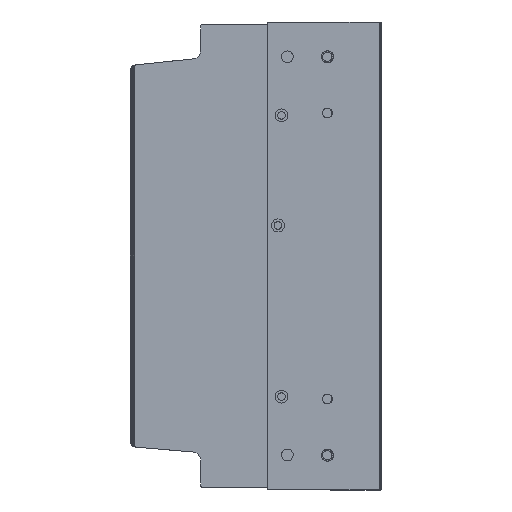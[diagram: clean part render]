
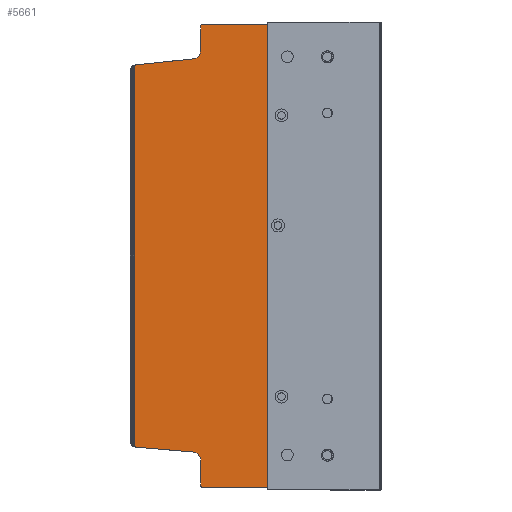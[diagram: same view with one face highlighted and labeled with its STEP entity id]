
A CAD part, front view. The second image highlights one B-rep face of the part: STEP entity #5661.
In plain terms, the highlighted planar face has unit normal (0, -1, 0).
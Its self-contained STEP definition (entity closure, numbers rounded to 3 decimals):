
#454=DIRECTION('',(1.,0.,0.));
#455=VECTOR('',#454,56.065);
#456=CARTESIAN_POINT('',(-54.083,10.39,197.5));
#457=LINE('',#456,#455);
#592=DIRECTION('',(1.,0.,0.));
#593=VECTOR('',#592,55.998);
#594=CARTESIAN_POINT('',(-54.016,10.39,-197.5));
#595=LINE('',#594,#593);
#1363=DIRECTION('',(0.,0.,-1.));
#1364=VECTOR('',#1363,22.088);
#1365=CARTESIAN_POINT('',(-55.02,10.39,-174.412));
#1366=LINE('',#1365,#1364);
#1367=CARTESIAN_POINT('',(-62.02,10.39,-174.414));
#1368=DIRECTION('',(0.,1.,0.));
#1369=DIRECTION('',(0.107,0.,0.994));
#1370=AXIS2_PLACEMENT_3D('',#1367,#1368,#1369);
#1372=DIRECTION('',(0.996,0.,-0.087));
#1373=VECTOR('',#1372,49.367);
#1374=CARTESIAN_POINT('',(-110.452,10.39,-163.151));
#1375=LINE('',#1374,#1373);
#1376=CARTESIAN_POINT('',(-110.016,10.39,-158.17));
#1377=DIRECTION('',(0.,1.,0.));
#1378=DIRECTION('',(-0.087,0.,-0.996));
#1379=AXIS2_PLACEMENT_3D('',#1376,#1377,#1378);
#1381=DIRECTION('',(0.,0.,1.));
#1382=VECTOR('',#1381,325.788);
#1383=CARTESIAN_POINT('',(-111.653,10.39,
-162.894));
#1384=LINE('',#1383,#1382);
#1385=CARTESIAN_POINT('',(-110.016,10.39,158.17));
#1386=DIRECTION('',(0.,1.,0.));
#1387=DIRECTION('',(-0.328,0.,0.945));
#1388=AXIS2_PLACEMENT_3D('',#1385,#1386,#1387);
#1390=DIRECTION('',(-0.994,0.,-0.106));
#1391=VECTOR('',#1390,49.552);
#1392=CARTESIAN_POINT('',(-61.272,10.39,168.39));
#1393=LINE('',#1392,#1391);
#1394=CARTESIAN_POINT('',(-62.02,10.39,175.35));
#1395=DIRECTION('',(0.,1.,0.));
#1396=DIRECTION('',(0.991,0.,-0.134));
#1397=AXIS2_PLACEMENT_3D('',#1394,#1395,#1396);
#1399=DIRECTION('',(0.,0.,-1.));
#1400=VECTOR('',#1399,22.088);
#1401=CARTESIAN_POINT('',(-55.083,10.39,196.5));
#1402=LINE('',#1401,#1400);
#1403=CARTESIAN_POINT('',(-54.083,10.39,196.5));
#1404=DIRECTION('',(0.,1.,0.));
#1405=DIRECTION('',(-1.,0.,0.));
#1406=AXIS2_PLACEMENT_3D('',#1403,#1404,#1405);
#1408=CARTESIAN_POINT('',(-54.016,10.39,-196.5));
#1409=DIRECTION('',(0.,1.,0.));
#1410=DIRECTION('',(0.,0.,-1.));
#1411=AXIS2_PLACEMENT_3D('',#1408,#1409,#1410);
#1423=CARTESIAN_POINT('',(-111.653,10.39,
-162.894));
#1429=CARTESIAN_POINT('',(-111.653,10.39,162.894));
#1531=DIRECTION('',(0.,0.,1.));
#1532=VECTOR('',#1531,395.);
#1533=CARTESIAN_POINT('',(1.982,10.39,-197.5));
#1534=LINE('',#1533,#1532);
#2983=CARTESIAN_POINT('',(-54.016,10.39,-197.5));
#2985=VERTEX_POINT('',#2983);
#2987=CARTESIAN_POINT('',(-54.083,10.39,197.5));
#2989=VERTEX_POINT('',#2987);
#3023=VERTEX_POINT('',#1423);
#3024=VERTEX_POINT('',#1429);
#3025=CARTESIAN_POINT('',(-55.02,10.39,-174.412));
#3026=CARTESIAN_POINT('',(-55.016,10.39,-196.5));
#3027=VERTEX_POINT('',#3025);
#3028=VERTEX_POINT('',#3026);
#3029=CARTESIAN_POINT('',(-110.452,10.39,-163.151));
#3030=VERTEX_POINT('',#3029);
#3031=CARTESIAN_POINT('',(-61.272,10.39,-167.454));
#3032=VERTEX_POINT('',#3031);
#3033=CARTESIAN_POINT('',(-55.083,10.39,196.5));
#3034=VERTEX_POINT('',#3033);
#3035=CARTESIAN_POINT('',(-55.083,10.39,174.412));
#3036=VERTEX_POINT('',#3035);
#3037=CARTESIAN_POINT('',(-61.272,10.39,168.39));
#3038=VERTEX_POINT('',#3037);
#3039=CARTESIAN_POINT('',(-110.545,10.39,163.142));
#3040=VERTEX_POINT('',#3039);
#3041=CARTESIAN_POINT('',(1.982,10.39,-197.5));
#3042=VERTEX_POINT('',#3041);
#3043=CARTESIAN_POINT('',(1.982,10.39,197.5));
#3044=VERTEX_POINT('',#3043);
#5637=CARTESIAN_POINT('',(-111.653,10.39,-197.5));
#5638=DIRECTION('',(0.,-1.,0.));
#5639=DIRECTION('',(1.,0.,0.));
#5640=AXIS2_PLACEMENT_3D('',#5637,#5638,#5639);
#5641=PLANE('',#5640);
#5642=ORIENTED_EDGE('',*,*,#5464,.F.);
#5643=ORIENTED_EDGE('',*,*,#5479,.F.);
#5644=ORIENTED_EDGE('',*,*,#5495,.F.);
#5645=ORIENTED_EDGE('',*,*,#5536,.T.);
#5647=ORIENTED_EDGE('',*,*,#5646,.T.);
#5648=ORIENTED_EDGE('',*,*,#5566,.T.);
#5649=ORIENTED_EDGE('',*,*,#5589,.F.);
#5650=ORIENTED_EDGE('',*,*,#5604,.F.);
#5651=ORIENTED_EDGE('',*,*,#5618,.F.);
#5652=ORIENTED_EDGE('',*,*,#5630,.T.);
#5653=ORIENTED_EDGE('',*,*,#4233,.T.);
#5655=ORIENTED_EDGE('',*,*,#5654,.F.);
#5656=ORIENTED_EDGE('',*,*,#4325,.F.);
#5658=ORIENTED_EDGE('',*,*,#5657,.T.);
#5659=EDGE_LOOP('',(#5642,#5643,#5644,#5645,#5647,#5648,#5649,#5650,#5651,#5652,
#5653,#5655,#5656,#5658));
#5660=FACE_OUTER_BOUND('',#5659,.F.);
#5661=ADVANCED_FACE('',(#5660),#5641,.T.);
#1371=CIRCLE('',#1370,7.);
#1380=CIRCLE('',#1379,5.);
#1389=CIRCLE('',#1388,5.);
#1398=CIRCLE('',#1397,7.);
#1407=CIRCLE('',#1406,1.);
#1412=CIRCLE('',#1411,1.);
#4233=EDGE_CURVE('',#2989,#3044,#457,.T.);
#4325=EDGE_CURVE('',#2985,#3042,#595,.T.);
#5464=EDGE_CURVE('',#3027,#3028,#1366,.T.);
#5479=EDGE_CURVE('',#3032,#3027,#1371,.T.);
#5495=EDGE_CURVE('',#3030,#3032,#1375,.T.);
#5536=EDGE_CURVE('',#3030,#3023,#1380,.T.);
#5566=EDGE_CURVE('',#3024,#3040,#1389,.T.);
#5589=EDGE_CURVE('',#3038,#3040,#1393,.T.);
#5604=EDGE_CURVE('',#3036,#3038,#1398,.T.);
#5618=EDGE_CURVE('',#3034,#3036,#1402,.T.);
#5630=EDGE_CURVE('',#3034,#2989,#1407,.T.);
#5646=EDGE_CURVE('',#3023,#3024,#1384,.T.);
#5654=EDGE_CURVE('',#3042,#3044,#1534,.T.);
#5657=EDGE_CURVE('',#2985,#3028,#1412,.T.);
